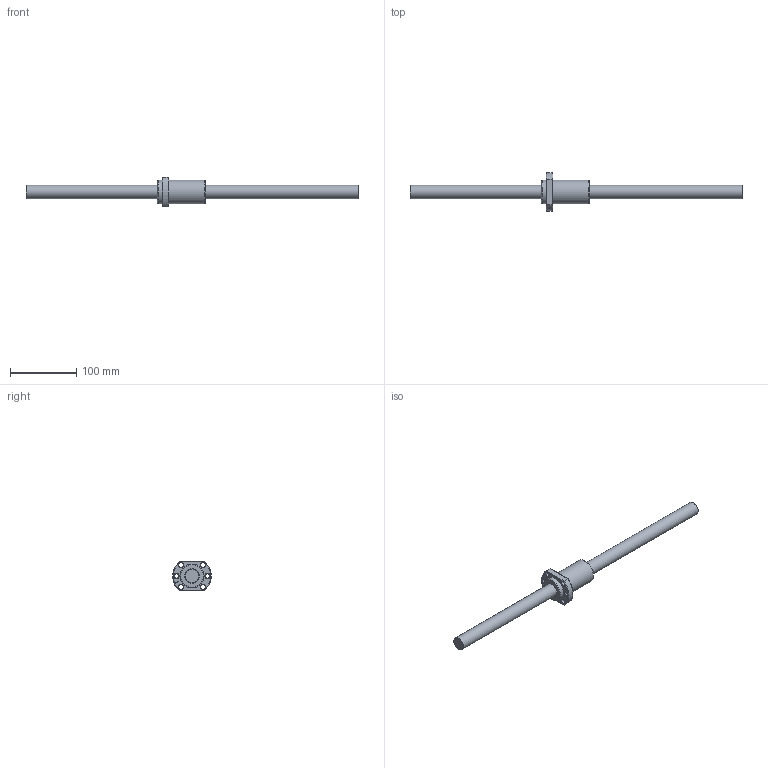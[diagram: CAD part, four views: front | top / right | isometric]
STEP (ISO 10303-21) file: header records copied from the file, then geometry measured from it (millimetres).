
FILE_DESCRIPTION (( 'STEP AP203' ), '1' );
FILE_NAME ('SFA2020-2.8.step', '2024-05-07T07:25:17', ( '' ), ( '' ), 'SwSTEP 2.0', 'SolidWorks 2022', '' );
FILE_SCHEMA (( 'CONFIG_CONTROL_DESIGN' ));
Length unit declared in the file: millimetre
Products named in the file (1): SFA2020-2.8
Bounding box: 500 x 58 x 44 mm (x, y, z)
Volume: 212754.4 mm3; surface area: 50361.3 mm2
Topology: 2 solids, 2 shells, 57 faces, 140 edges, 89 vertices
Faces by surface type: cylinder 20, plane 13, cone 13, torus 6, bspline 5
Full cylindrical faces by diameter (mm): 4 x1, 5 x6, 6.6 x6, 20 x1, 22.1 x1, 36 x2
Entity records: 3197 total; most frequent: CARTESIAN_POINT 2110, DIRECTION 198, ORIENTED_EDGE 172, EDGE_LOOP 96, AXIS2_PLACEMENT_3D 91, EDGE_CURVE 86, VERTEX_POINT 70, FACE_OUTER_BOUND 65
